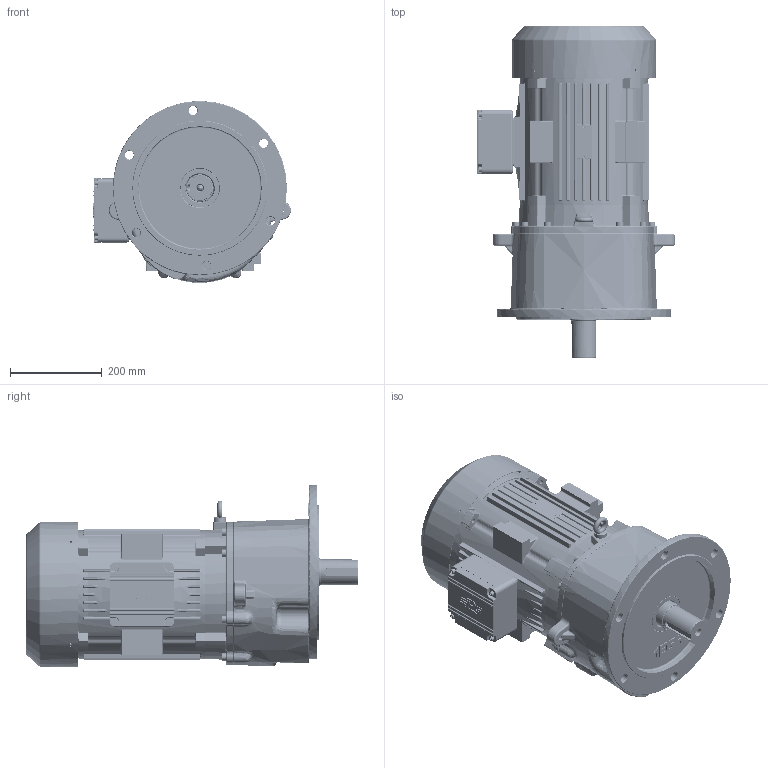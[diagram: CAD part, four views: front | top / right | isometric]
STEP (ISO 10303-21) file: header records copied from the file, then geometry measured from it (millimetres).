
FILE_DESCRIPTION(/* description */ (''),/* implementation_level */ '2;1');
FILE_NAME(/* name */ 'Z:\동력 3D 파일\PMK205_11kW_3D.stp',/* time_stamp */ '2021-12-01T15:43:14+09:00',/* author */ ('jaebok'),/* organization */ (''),/* preprocessor_version */ 'ST-DEVELOPER v18.1',/* originating_system */ 'Autodesk Inventor 2022',/* authorisation */ '');
FILE_SCHEMA (('AUTOMOTIVE_DESIGN { 1 0 10303 214 3 1 1 }'));
Products named in the file (1): 부품31
Bounding box: 431.4 x 724.7 x 397.15 mm (x, y, z)
Volume: 13842120.5 mm3; surface area: 2360247.4 mm2
Topology: 2 solids, 20 shells, 6232 faces, 15813 edges, 9479 vertices
Faces by surface type: plane 1780, cylinder 1758, bspline 1559, torus 618, sphere 327, cone 190
Full cylindrical faces by diameter (mm): 3.242 x4, 4.134 x4, 4.917 x9, 5 x13, 6 x4, 6.5 x8, 6.647 x17, 7 x1, 8 x4, 8.376 x1, 9.5 x4, 10 x12, 10.106 x3, 12 x1, 13.2 x1, 13.835 x1, 15 x1, 16 x8, 19 x6, 20 x1, 28 x1, 34 x1, 37 x1, 40 x1, 45 x1, 50 x1, 52 x1, 55 x1, 60 x4, 62 x1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
Entity records: 228679 total; most frequent: CARTESIAN_POINT 80845, ORIENTED_EDGE 30978, DIRECTION 27414, EDGE_CURVE 15489, AXIS2_PLACEMENT_3D 10381, VERTEX_POINT 9479, EDGE_LOOP 6760, LINE 6652
